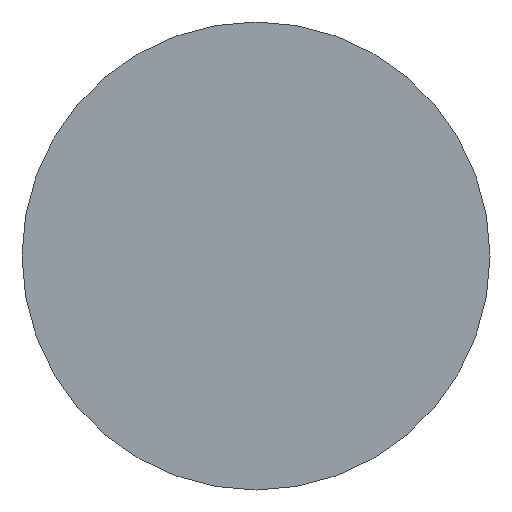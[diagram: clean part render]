
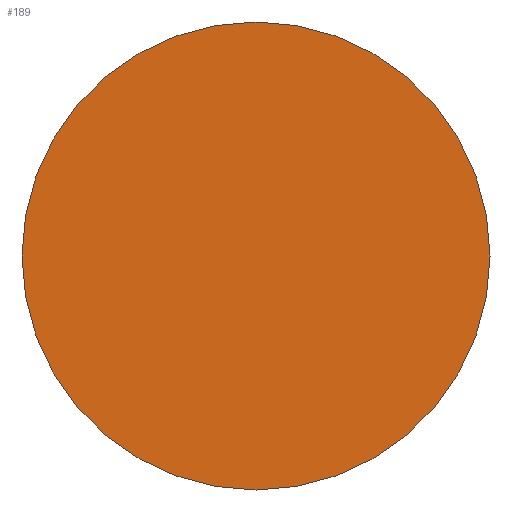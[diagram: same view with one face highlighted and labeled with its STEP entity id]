
A CAD part, left-side view. The second image highlights one B-rep face of the part: STEP entity #189.
In plain terms, the highlighted planar face has unit normal (-1, 0, 0).
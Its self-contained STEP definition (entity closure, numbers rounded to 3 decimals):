
#45 = CONICAL_SURFACE('',#46,4.,0.785);
#46 = AXIS2_PLACEMENT_3D('',#47,#48,#49);
#47 = CARTESIAN_POINT('',(-2.25,18.5,99.5));
#48 = DIRECTION('',(-1.,-0.,-0.));
#49 = DIRECTION('',(-0.,0.,1.));
#134 = VERTEX_POINT('',#135);
#135 = CARTESIAN_POINT('',(-2.25,18.5,103.5));
#159 = EDGE_CURVE('',#134,#134,#160,.T.);
#160 = SURFACE_CURVE('',#161,(#166,#173),.PCURVE_S1.);
#161 = CIRCLE('',#162,4.);
#162 = AXIS2_PLACEMENT_3D('',#163,#164,#165);
#163 = CARTESIAN_POINT('',(-2.25,18.5,99.5));
#164 = DIRECTION('',(1.,0.,0.));
#165 = DIRECTION('',(-0.,0.,1.));
#166 = PCURVE('',#45,#167);
#167 = DEFINITIONAL_REPRESENTATION('',(#168),#172);
#168 = LINE('',#169,#170);
#169 = CARTESIAN_POINT('',(-0.,-0.));
#170 = VECTOR('',#171,1.);
#171 = DIRECTION('',(-1.,-0.));
#172 = ( GEOMETRIC_REPRESENTATION_CONTEXT(2) 
PARAMETRIC_REPRESENTATION_CONTEXT() REPRESENTATION_CONTEXT('2D SPACE',''
  ) );
#173 = PCURVE('',#174,#179);
#174 = PLANE('',#175);
#175 = AXIS2_PLACEMENT_3D('',#176,#177,#178);
#176 = CARTESIAN_POINT('',(-2.25,18.5,99.5));
#177 = DIRECTION('',(1.,0.,0.));
#178 = DIRECTION('',(-0.,0.,1.));
#179 = DEFINITIONAL_REPRESENTATION('',(#180),#184);
#180 = CIRCLE('',#181,4.);
#181 = AXIS2_PLACEMENT_2D('',#182,#183);
#182 = CARTESIAN_POINT('',(0.,0.));
#183 = DIRECTION('',(1.,0.));
#184 = ( GEOMETRIC_REPRESENTATION_CONTEXT(2) 
PARAMETRIC_REPRESENTATION_CONTEXT() REPRESENTATION_CONTEXT('2D SPACE',''
  ) );
#189 = ADVANCED_FACE('',(#190),#174,.F.);
#190 = FACE_BOUND('',#191,.T.);
#191 = EDGE_LOOP('',(#192));
#192 = ORIENTED_EDGE('',*,*,#159,.F.);
